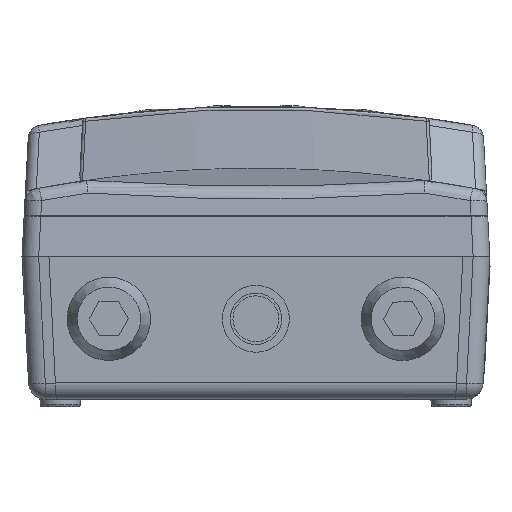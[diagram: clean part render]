
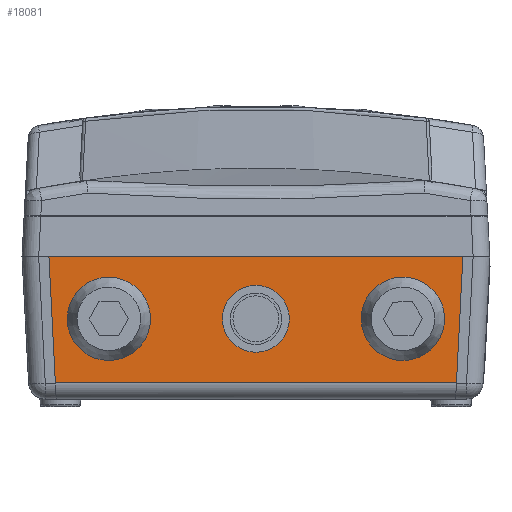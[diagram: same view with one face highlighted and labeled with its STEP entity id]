
A CAD part, front view. The second image highlights one B-rep face of the part: STEP entity #18081.
In plain terms, the highlighted planar face has unit normal (0, -1, 0).
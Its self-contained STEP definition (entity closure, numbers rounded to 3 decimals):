
#170 = CARTESIAN_POINT ( 'NONE',  ( 61.945, -105.75, 0. ) ) ;
#190 = CARTESIAN_POINT ( 'NONE',  ( 0., -105.75, 0. ) ) ;
#441 = CARTESIAN_POINT ( 'NONE',  ( -61.945, -105.75, 0. ) ) ;
#512 = VERTEX_POINT ( 'NONE', #20371 ) ;
#704 = EDGE_CURVE ( 'NONE', #1005, #1005, #12499, .T. ) ;
#1005 = VERTEX_POINT ( 'NONE', #9464 ) ;
#1799 = DIRECTION ( 'NONE',  ( 0., -1., 0. ) ) ;
#2648 = CARTESIAN_POINT ( 'NONE',  ( -60.017, -105.75, -37.549 ) ) ;
#2878 = ORIENTED_EDGE ( 'NONE', *, *, #18645, .F. ) ;
#2939 = CARTESIAN_POINT ( 'NONE',  ( -44., -105.75, -28.55 ) ) ;
#3546 = ORIENTED_EDGE ( 'NONE', *, *, #704, .F. ) ;
#3683 = FACE_BOUND ( 'NONE', #14771, .T. ) ;
#3803 = LINE ( 'NONE', #6449, #13708 ) ;
#3907 = FACE_OUTER_BOUND ( 'NONE', #14584, .T. ) ;
#4740 = DIRECTION ( 'NONE',  ( 0., 0., -1. ) ) ;
#4760 = VERTEX_POINT ( 'NONE', #2939 ) ;
#4861 = AXIS2_PLACEMENT_3D ( 'NONE', #16576, #16368, #21366 ) ;
#5078 = FACE_BOUND ( 'NONE', #15785, .T. ) ;
#5212 = ORIENTED_EDGE ( 'NONE', *, *, #13303, .F. ) ;
#5431 = CARTESIAN_POINT ( 'NONE',  ( 60.017, -105.75, -37.549 ) ) ;
#5879 = DIRECTION ( 'NONE',  ( 0., 0., -1. ) ) ;
#6449 = CARTESIAN_POINT ( 'NONE',  ( 61.945, -105.75, 0. ) ) ;
#6505 = CARTESIAN_POINT ( 'NONE',  ( 59.76, -105.75, -42.549 ) ) ;
#6790 = AXIS2_PLACEMENT_3D ( 'NONE', #8013, #1799, #4740 ) ;
#6813 = DIRECTION ( 'NONE',  ( 0., -1., 0. ) ) ;
#7058 = VERTEX_POINT ( 'NONE', #18821 ) ;
#7068 = DIRECTION ( 'NONE',  ( -0.051, 0., 0.999 ) ) ;
#7155 = FACE_BOUND ( 'NONE', #16212, .T. ) ;
#8013 = CARTESIAN_POINT ( 'NONE',  ( 44., -105.75, -18.55 ) ) ;
#8207 = VECTOR ( 'NONE', #17344, 1000. ) ;
#8859 = AXIS2_PLACEMENT_3D ( 'NONE', #190, #6813, #20052 ) ;
#9297 = AXIS2_PLACEMENT_3D ( 'NONE', #11246, #12750, #5879 ) ;
#9464 = CARTESIAN_POINT ( 'NONE',  ( 0., -105.75, -28.55 ) ) ;
#9882 = DIRECTION ( 'NONE',  ( -0.051, 0., -0.999 ) ) ;
#10063 = ORIENTED_EDGE ( 'NONE', *, *, #18786, .F. ) ;
#10565 = VERTEX_POINT ( 'NONE', #2648 ) ;
#10810 = VERTEX_POINT ( 'NONE', #5431 ) ;
#11246 = CARTESIAN_POINT ( 'NONE',  ( -44., -105.75, -18.55 ) ) ;
#11375 = EDGE_CURVE ( 'NONE', #10565, #10810, #15609, .T. ) ;
#11979 = VECTOR ( 'NONE', #7068, 1000. ) ;
#12499 = CIRCLE ( 'NONE', #4861, 10. ) ;
#12750 = DIRECTION ( 'NONE',  ( 0., -1., 0. ) ) ;
#13204 = EDGE_CURVE ( 'NONE', #4760, #4760, #18637, .T. ) ;
#13303 = EDGE_CURVE ( 'NONE', #20889, #10810, #19429, .T. ) ;
#13708 = VECTOR ( 'NONE', #14917, 1000. ) ;
#13788 = CARTESIAN_POINT ( 'NONE',  ( 59.76, -105.75, -37.549 ) ) ;
#14584 = EDGE_LOOP ( 'NONE', ( #10063, #21093, #5212, #2878 ) ) ;
#14771 = EDGE_LOOP ( 'NONE', ( #20860 ) ) ;
#14917 = DIRECTION ( 'NONE',  ( 1., 0., 0. ) ) ;
#15059 = PLANE ( 'NONE',  #8859 ) ;
#15539 = VECTOR ( 'NONE', #9882, 1000. ) ;
#15609 = LINE ( 'NONE', #13788, #8207 ) ;
#15785 = EDGE_LOOP ( 'NONE', ( #3546 ) ) ;
#16164 = CIRCLE ( 'NONE', #6790, 10. ) ;
#16212 = EDGE_LOOP ( 'NONE', ( #21396 ) ) ;
#16368 = DIRECTION ( 'NONE',  ( 0., -1., 0. ) ) ;
#16576 = CARTESIAN_POINT ( 'NONE',  ( 0., -105.75, -18.55 ) ) ;
#16932 = LINE ( 'NONE', #441, #11979 ) ;
#17344 = DIRECTION ( 'NONE',  ( 1., 0., 0. ) ) ;
#18081 = ADVANCED_FACE ( 'NONE', ( #7155, #3683, #5078, #3907 ), #15059, .T. ) ;
#18637 = CIRCLE ( 'NONE', #9297, 10. ) ;
#18645 = EDGE_CURVE ( 'NONE', #7058, #20889, #3803, .T. ) ;
#18786 = EDGE_CURVE ( 'NONE', #10565, #7058, #16932, .T. ) ;
#18821 = CARTESIAN_POINT ( 'NONE',  ( -61.945, -105.75, 0. ) ) ;
#19134 = EDGE_CURVE ( 'NONE', #512, #512, #16164, .T. ) ;
#19429 = LINE ( 'NONE', #6505, #15539 ) ;
#20052 = DIRECTION ( 'NONE',  ( 0., 0., -1. ) ) ;
#20371 = CARTESIAN_POINT ( 'NONE',  ( 44., -105.75, -28.55 ) ) ;
#20860 = ORIENTED_EDGE ( 'NONE', *, *, #13204, .F. ) ;
#20889 = VERTEX_POINT ( 'NONE', #170 ) ;
#21093 = ORIENTED_EDGE ( 'NONE', *, *, #11375, .T. ) ;
#21366 = DIRECTION ( 'NONE',  ( 0., 0., -1. ) ) ;
#21396 = ORIENTED_EDGE ( 'NONE', *, *, #19134, .F. ) ;
